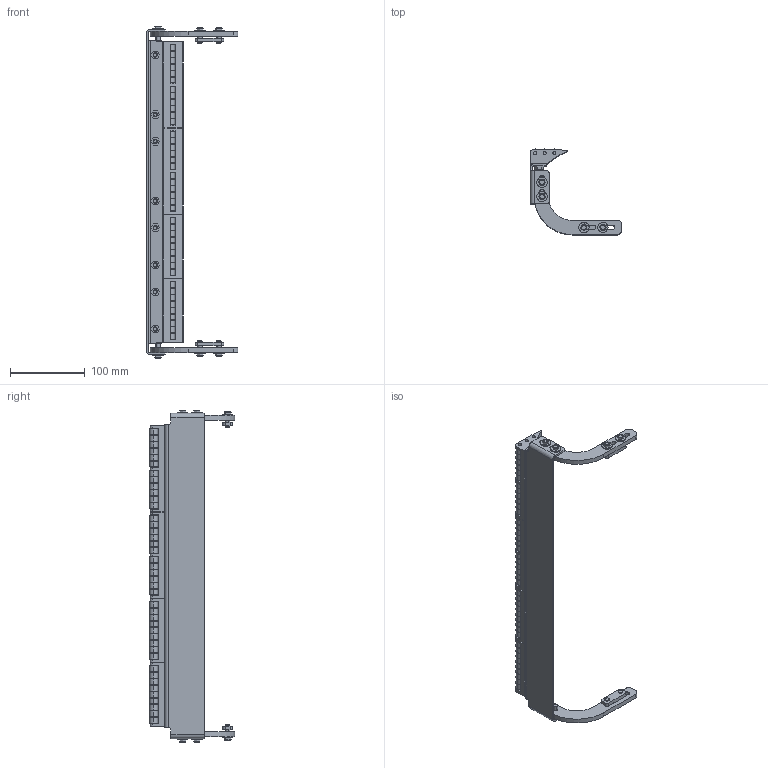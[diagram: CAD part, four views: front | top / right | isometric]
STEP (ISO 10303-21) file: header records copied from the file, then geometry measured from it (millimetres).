
FILE_DESCRIPTION((''),'2;1');
FILE_NAME('518355-16_ASM','2023-03-24T',('jenni.wallner'),(''),'PRO/ENGINEER BY PARAMETRIC TECHNOLOGY CORPORATION, 2012420','PRO/ENGINEER BY PARAMETRIC TECHNOLOGY CORPORATION, 2012420','');
FILE_SCHEMA(('CONFIG_CONTROL_DESIGN'));
Length unit declared in the file: inch
Products named in the file (75): 960616MSSF; 807-1829_21-1-SOLID1; 807-1829_3-1-SOLID1; 807-1829_24-1-SOLID1; 807-1829_6-1-SOLID1; CUT-EXTRUDE1_3_; 807-1829_11-1-SOLID1; 807-1829_18-1-SOLID1; 807-1829_1-1-SOLID1; 807-1829_23-1-SOLID1; 807-1829-1-SOLID1; 807-1829_2-1-SOLID1; 807-1829_16-1-SOLID1; 807-1829_19-1-SOLID1; CUT-EXTRUDE1_2_; 807-1829_12-1-SOLID1; 807-1829_15-1-SOLID1; 807-1829_7-1-SOLID1; 807-1829_20-1-SOLID1; 807-1829_9-1-SOLID1; 807-1829_8-1-SOLID1; 807-1829_25-1-SOLID1; 807-1829_10-1-SOLID1; 807-1829_17-1-SOLID1; 807-1829_4-1-SOLID1; 807-1829_14-1-SOLID1; 807-1829_27-1-SOLID1; 807-1829_5-1-SOLID1; CUT-EXTRUDE1_1_; 807-1829_26-1-SOLID1; 807-1829_13-1-SOLID1; 807-1829_ASM; 807-1830_13-1-SOLID1; 807-1830_18-1-SOLID1; 807-1830_3-1-SOLID1; 807-1830_11-1-SOLID1; 807-1830_5-1-SOLID1; 807-1830_7-1-SOLID1; 807-1830_8-1-SOLID1; 807-1830_25-1-SOLID1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
Assembly tree (85 placements, depth 4):
  518355-16_ASM
    ASM0001_ASM
      960616MSSF  x8
      807-1829_ASM  x2
        807-1829_21-1-SOLID1
        807-1829_3-1-SOLID1
        807-1829_24-1-SOLID1
        807-1829_6-1-SOLID1
        CUT-EXTRUDE1_3_
        807-1829_11-1-SOLID1
        807-1829_18-1-SOLID1
        807-1829_1-1-SOLID1
        807-1829_23-1-SOLID1
        807-1829-1-SOLID1
        807-1829_2-1-SOLID1
        807-1829_16-1-SOLID1
        807-1829_19-1-SOLID1
        CUT-EXTRUDE1_2_
        807-1829_12-1-SOLID1
        807-1829_15-1-SOLID1
        807-1829_7-1-SOLID1
        807-1829_20-1-SOLID1
        807-1829_9-1-SOLID1
        807-1829_8-1-SOLID1
        807-1829_25-1-SOLID1
        807-1829_10-1-SOLID1
        807-1829_17-1-SOLID1
        807-1829_4-1-SOLID1
        807-1829_14-1-SOLID1
        807-1829_27-1-SOLID1
        807-1829_5-1-SOLID1
        CUT-EXTRUDE1_1_
        807-1829_26-1-SOLID1
        807-1829_13-1-SOLID1
      807-1830_ASM  x2
        807-1830_13-1-SOLID1
        807-1830_18-1-SOLID1
        807-1830_3-1-SOLID1
        807-1830_11-1-SOLID1
        807-1830_5-1-SOLID1
        807-1830_7-1-SOLID1
        807-1830_8-1-SOLID1
        807-1830_25-1-SOLID1
        807-1830_12-1-SOLID1
        807-1830_10-1-SOLID1
        807-1830_29-1-SOLID1
        807-1830_20-1-SOLID1
        807-1830_17-1-SOLID1
        807-1830_4-1-SOLID1
        807-1830_6-1-SOLID1
        807-1830_28-1-SOLID1
        807-1830_23-1-SOLID1
        807-1830_34-1-SOLID1
        807-1830_26-1-SOLID1
        807-1830_16-1-SOLID1
        807-1830_9-1-SOLID1
        807-1830_19-1-SOLID1
        807-1830_27-1-SOLID1
        807-1830_33-1-SOLID1
        807-1830_30-1-SOLID1
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Bounding box: 122.82 x 114.68 x 444.92 mm (x, y, z)
Volume: 340014.5 mm3; surface area: 209015.6 mm2
Topology: 147 solids, 147 shells, 1092 faces, 2226 edges, 1466 vertices
Faces by surface type: plane 544, cylinder 500, cone 48
Entity records: 16323 total; most frequent: DIRECTION 3136, CARTESIAN_POINT 2615, ORIENTED_EDGE 2162, AXIS2_PLACEMENT_3D 1297, EDGE_CURVE 1081, VERTEX_POINT 713, EDGE_LOOP 600, VECTOR 542
